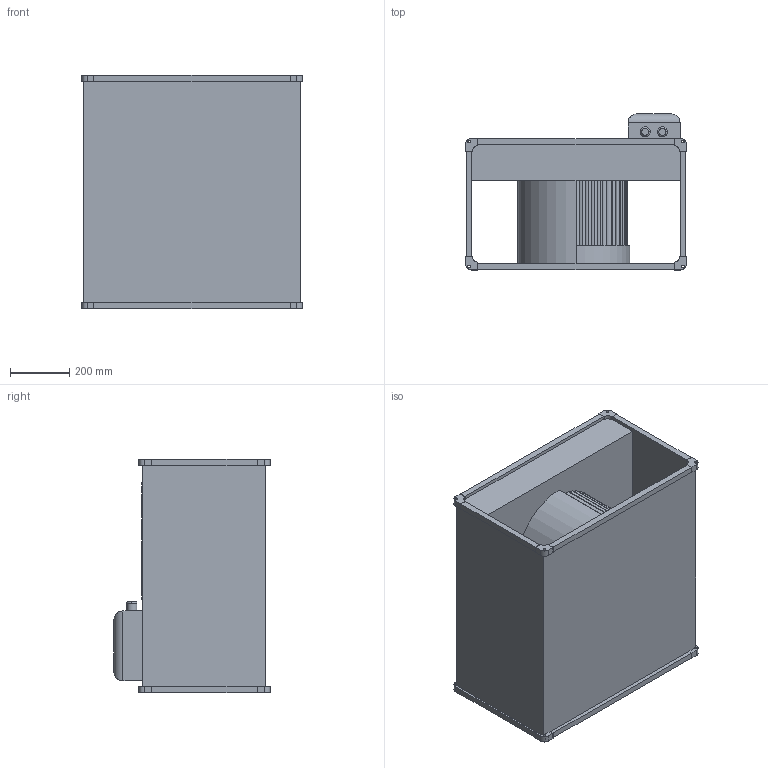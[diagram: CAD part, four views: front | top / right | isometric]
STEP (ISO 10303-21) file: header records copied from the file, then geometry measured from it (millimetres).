
FILE_DESCRIPTION(('STEP AP214'),'1');
FILE_NAME('fan_5132892200.stp','2017-03-31T18:13:15',('TraceParts'),('TraceParts S.A.'),'Spatial InterOp 3D',' ',' ');
FILE_SCHEMA(('automotive_design'));
Length unit declared in the file: millimetre
Products named in the file (1): fan_5132892200
Bounding box: 742 x 525 x 787 mm (x, y, z)
Volume: 113988381.9 mm3; surface area: 4203185.4 mm2
Topology: 1 solids, 1 shells, 265 faces, 802 edges, 534 vertices
Faces by surface type: cylinder 154, plane 107, torus 4
Entity records: 11314 total; most frequent: DIRECTION 1668, ORIENTED_EDGE 1604, CARTESIAN_POINT 1602, EDGE_CURVE 802, AXIS2_PLACEMENT_3D 600, VERTEX_POINT 534, LINE 468, VECTOR 468
